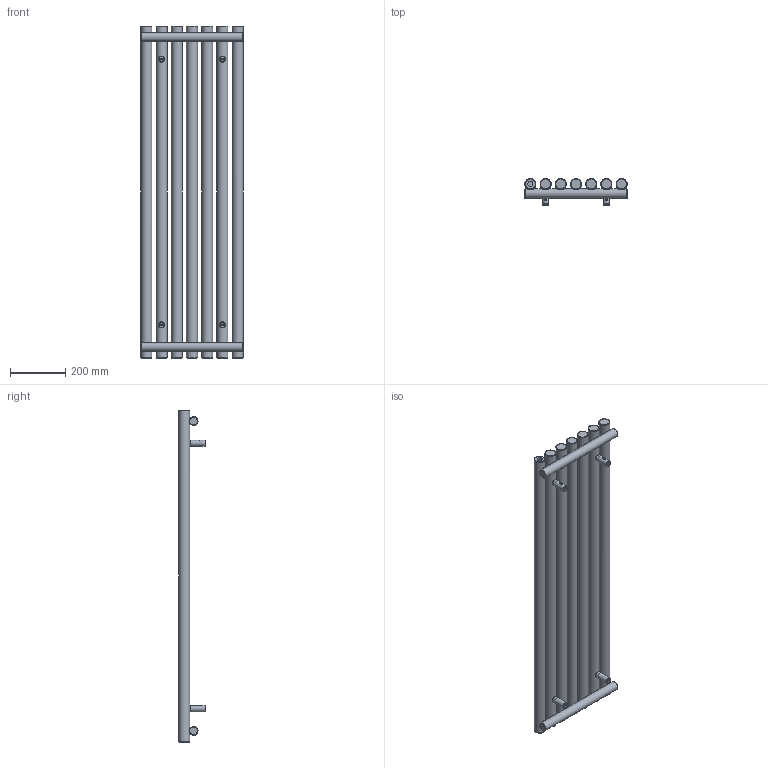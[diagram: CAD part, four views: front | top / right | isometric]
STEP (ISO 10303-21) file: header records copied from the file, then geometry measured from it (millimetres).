
FILE_DESCRIPTION(/* description */ (''),/* implementation_level */ '2;1');
FILE_NAME(/* name */ 'Z:\R\G\P\RGP116 - Grzejniki Geyser\Work\Inventor\Circolo (Rolo V, Rolo H)\ROLO-ROOM\Marketing\Zaokrąglone\WGROR120037-SX-CK-(Z).stp',/* time_stamp */ '2024-01-19T11:46:45+01:00',/* author */ ('NowAd'),/* organization */ (''),/* preprocessor_version */ 'ST-DEVELOPER v17.2',/* originating_system */ 'Autodesk Inventor 2019',/* authorisation */ '');
FILE_SCHEMA (('AUTOMOTIVE_DESIGN { 1 0 10303 214 3 1 1 }'));
Length unit declared in the file: millimetre
Products named in the file (3): WGROR120037-SX-CK-(Z); PGROR120037-SX-CK-(K); CK-V-fi40 marketing
Assembly tree (5 placements, depth 2):
  WGROR120037-SX-CK-(Z)
    PGROR120037-SX-CK-(K)
    CK-V-fi40 marketing  x4
Bounding box: 370 x 96.5 x 1200 mm (x, y, z)
Volume: 11188565.1 mm3; surface area: 1174150.2 mm2
Topology: 5 solids, 5 shells, 333 faces, 834 edges, 558 vertices
Faces by surface type: plane 137, cylinder 76, cone 60, torus 46, bspline 14
Full cylindrical faces by diameter (mm): 4.134 x4, 4.48 x4, 6.4 x4, 10 x4, 12 x4, 15.834 x4, 16 x4, 18.631 x3, 22 x4, 32 x2, 40 x7
Entity records: 7429 total; most frequent: CARTESIAN_POINT 3833, DIRECTION 751, ORIENTED_EDGE 706, EDGE_CURVE 353, AXIS2_PLACEMENT_3D 337, VERTEX_POINT 240, EDGE_LOOP 197, CIRCLE 185
